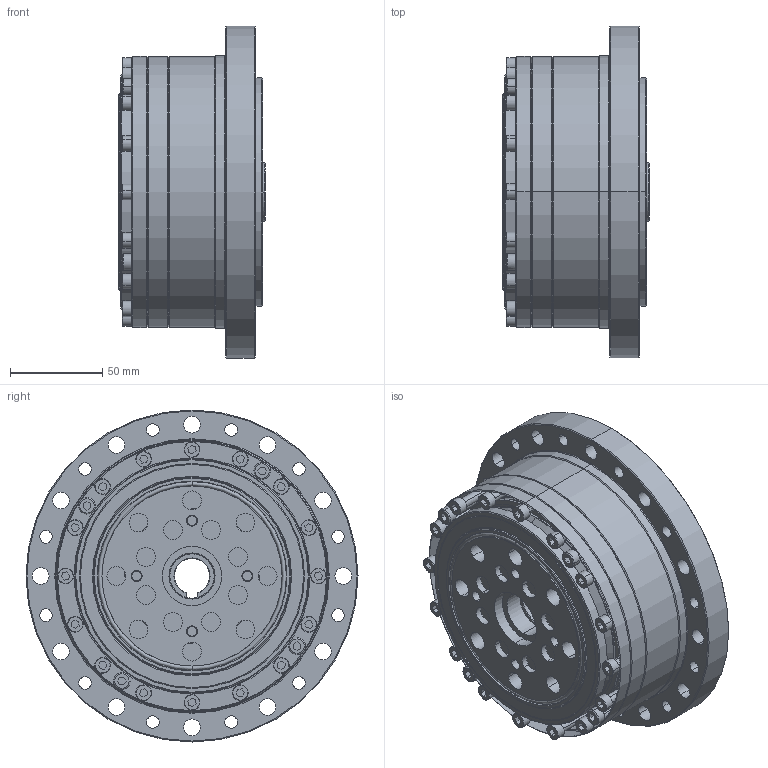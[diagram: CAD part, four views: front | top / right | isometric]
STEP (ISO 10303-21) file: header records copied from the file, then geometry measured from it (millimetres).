
FILE_DESCRIPTION (( 'STEP AP203' ), '1' );
FILE_NAME ('FCG-45-XXX-AO.STEP', '2023-02-22T09:25:47', ( '微软用户' ), ( '微软中国' ), 'SwSTEP 2.0', 'SolidWorks 2016', '' );
FILE_SCHEMA (( 'CONFIG_CONTROL_DESIGN' ));
Length unit declared in the file: millimetre
Products named in the file (1): FCG-45-XXX-AO
Bounding box: 79.5 x 180 x 180 mm (x, y, z)
Volume: 946279.5 mm3; surface area: 376504.1 mm2
Topology: 68 solids, 69 shells, 1326 faces, 3144 edges, 1975 vertices
Faces by surface type: cylinder 522, plane 427, cone 183, torus 148, sphere 46
Entity records: 37871 total; most frequent: DIRECTION 7256, CARTESIAN_POINT 6314, ORIENTED_EDGE 5994, EDGE_CURVE 2997, AXIS2_PLACEMENT_3D 2960, VERTEX_POINT 1906, CIRCLE 1633, EDGE_LOOP 1621
